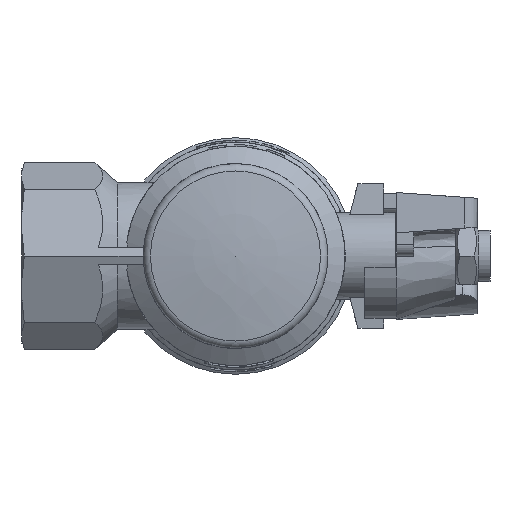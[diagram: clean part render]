
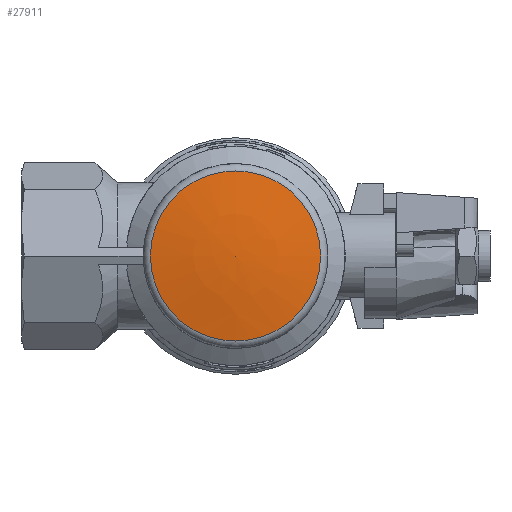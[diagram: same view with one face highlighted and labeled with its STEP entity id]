
A CAD part, front view. The second image highlights one B-rep face of the part: STEP entity #27911.
In plain terms, the highlighted free-form (B-spline) face has degree [2, 2] with [3, 9] control points.
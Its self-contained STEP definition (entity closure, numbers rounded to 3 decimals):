
#58=(
BOUNDED_SURFACE()
B_SPLINE_SURFACE(2,2,((#51566,#51567,#51568,#51569,#51570,#51571,#51572,
#51573,#51574),(#51575,#51576,#51577,#51578,#51579,#51580,#51581,#51582,
#51583),(#51584,#51585,#51586,#51587,#51588,#51589,#51590,#51591,#51592)),
 .UNSPECIFIED.,.F.,.T.,.F.)
B_SPLINE_SURFACE_WITH_KNOTS((3,3),(3,2,2,2,3),(-1.555,-1.407),
(-3.142,-1.571,0.,1.571,3.142),
 .UNSPECIFIED.)
GEOMETRIC_REPRESENTATION_ITEM()
RATIONAL_B_SPLINE_SURFACE(((1.,0.707,1.,0.707,1.,
0.707,1.,0.707,1.),(0.997,0.705,
0.997,0.705,0.997,0.705,
0.997,0.705,0.997),(1.,0.707,
1.,0.707,1.,0.707,1.,0.707,1.)))
REPRESENTATION_ITEM('')
SURFACE()
);
#4765=FACE_OUTER_BOUND('',#6411,.T.);
#6411=EDGE_LOOP('',(#21523,#21524,#21525,#21526));
#10565=CIRCLE('',#30002,14.745);
#10566=CIRCLE('',#30003,14.745);
#10567=CIRCLE('',#30004,100.);
#11962=VERTEX_POINT('',#51593);
#11963=VERTEX_POINT('',#51594);
#11964=VERTEX_POINT('',#51597);
#15480=EDGE_CURVE('',#11962,#11963,#10565,.T.);
#15481=EDGE_CURVE('',#11963,#11962,#10566,.T.);
#15482=EDGE_CURVE('',#11963,#11964,#10567,.T.);
#21523=ORIENTED_EDGE('',*,*,#15480,.F.);
#21524=ORIENTED_EDGE('',*,*,#15481,.F.);
#21525=ORIENTED_EDGE('',*,*,#15482,.T.);
#21526=ORIENTED_EDGE('',*,*,#15482,.F.);
#27911=ADVANCED_FACE('',(#4765),#58,.F.);
#30002=AXIS2_PLACEMENT_3D('',#51595,#33394,#33395);
#30003=AXIS2_PLACEMENT_3D('',#51596,#33396,#33397);
#30004=AXIS2_PLACEMENT_3D('',#51598,#33398,#33399);
#33394=DIRECTION('center_axis',(0.,1.,0.));
#33395=DIRECTION('ref_axis',(1.,0.,0.));
#33396=DIRECTION('center_axis',(0.,1.,0.));
#33397=DIRECTION('ref_axis',(1.,0.,0.));
#33398=DIRECTION('center_axis',(-1.,0.,0.));
#33399=DIRECTION('ref_axis',(0.,0.,-1.));
#51566=CARTESIAN_POINT('Ctrl Pts',(-27.7,-22.,0.));
#51567=CARTESIAN_POINT('Ctrl Pts',(-27.7,-22.,0.));
#51568=CARTESIAN_POINT('Ctrl Pts',(-27.7,-22.,0.));
#51569=CARTESIAN_POINT('Ctrl Pts',(-27.7,-22.,0.));
#51570=CARTESIAN_POINT('Ctrl Pts',(-27.7,-22.,0.));
#51571=CARTESIAN_POINT('Ctrl Pts',(-27.7,-22.,0.));
#51572=CARTESIAN_POINT('Ctrl Pts',(-27.7,-22.,0.));
#51573=CARTESIAN_POINT('Ctrl Pts',(-27.7,-22.,0.));
#51574=CARTESIAN_POINT('Ctrl Pts',(-27.7,-22.,0.));
#51575=CARTESIAN_POINT('Ctrl Pts',(-27.7,-21.882,-7.422));
#51576=CARTESIAN_POINT('Ctrl Pts',(-35.122,-21.882,-7.422));
#51577=CARTESIAN_POINT('Ctrl Pts',(-35.122,-21.882,0.));
#51578=CARTESIAN_POINT('Ctrl Pts',(-35.122,-21.882,7.422));
#51579=CARTESIAN_POINT('Ctrl Pts',(-27.7,-21.882,7.422));
#51580=CARTESIAN_POINT('Ctrl Pts',(-20.278,-21.882,7.422));
#51581=CARTESIAN_POINT('Ctrl Pts',(-20.278,-21.882,0.));
#51582=CARTESIAN_POINT('Ctrl Pts',(-20.278,-21.882,-7.422));
#51583=CARTESIAN_POINT('Ctrl Pts',(-27.7,-21.882,-7.422));
#51584=CARTESIAN_POINT('Ctrl Pts',(-27.7,-20.669,-14.745));
#51585=CARTESIAN_POINT('Ctrl Pts',(-42.445,-20.669,
-14.745));
#51586=CARTESIAN_POINT('Ctrl Pts',(-42.445,-20.669,
0.));
#51587=CARTESIAN_POINT('Ctrl Pts',(-42.445,-20.669,
14.745));
#51588=CARTESIAN_POINT('Ctrl Pts',(-27.7,-20.669,14.745));
#51589=CARTESIAN_POINT('Ctrl Pts',(-12.955,-20.669,
14.745));
#51590=CARTESIAN_POINT('Ctrl Pts',(-12.955,-20.669,
0.));
#51591=CARTESIAN_POINT('Ctrl Pts',(-12.955,-20.669,
-14.745));
#51592=CARTESIAN_POINT('Ctrl Pts',(-27.7,-20.669,-14.745));
#51593=CARTESIAN_POINT('',(-12.955,-20.669,0.));
#51594=CARTESIAN_POINT('',(-27.7,-20.669,-14.745));
#51595=CARTESIAN_POINT('Origin',(-27.7,-20.669,0.));
#51596=CARTESIAN_POINT('Origin',(-27.7,-20.669,0.));
#51597=CARTESIAN_POINT('',(-27.7,-22.,0.));
#51598=CARTESIAN_POINT('Origin',(-27.7,77.987,1.591));
